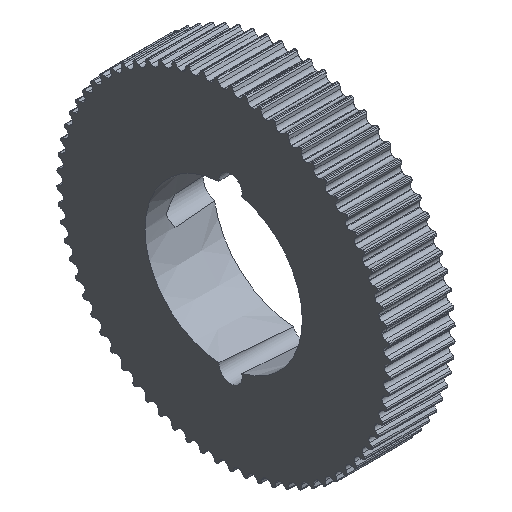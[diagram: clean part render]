
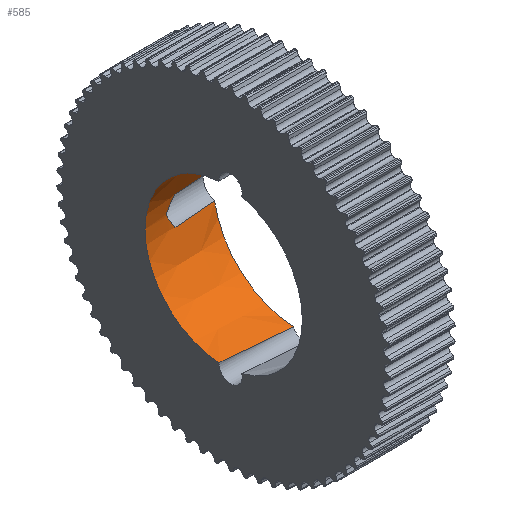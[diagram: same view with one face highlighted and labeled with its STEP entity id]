
A CAD part, isometric view. The second image highlights one B-rep face of the part: STEP entity #585.
In plain terms, the highlighted conical face has half-angle 4 degrees and reference radius 26.752 mm.
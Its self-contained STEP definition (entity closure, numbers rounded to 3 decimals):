
#585 = ADVANCED_FACE( '', ( #1685 ), #1686, .F. );
#1685 = FACE_OUTER_BOUND( '', #2861, .T. );
#1686 = CONICAL_SURFACE( '', #2862, 26.752, 0.07 );
#2861 = EDGE_LOOP( '', ( #7156, #7157, #7158, #7159, #7160, #7161, #7162, #7163 ) );
#2862 = AXIS2_PLACEMENT_3D( '', #7164, #7165, #7166 );
#7156 = ORIENTED_EDGE( '', *, *, #9938, .F. );
#7157 = ORIENTED_EDGE( '', *, *, #9939, .T. );
#7158 = ORIENTED_EDGE( '', *, *, #9932, .T. );
#7159 = ORIENTED_EDGE( '', *, *, #9940, .T. );
#7160 = ORIENTED_EDGE( '', *, *, #8269, .T. );
#7161 = ORIENTED_EDGE( '', *, *, #9941, .T. );
#7162 = ORIENTED_EDGE( '', *, *, #9930, .T. );
#7163 = ORIENTED_EDGE( '', *, *, #9942, .T. );
#7164 = CARTESIAN_POINT( '', ( 0., 0., 0. ) );
#7165 = DIRECTION( '', ( 1., 0., 0. ) );
#7166 = DIRECTION( '', ( 0., 0., -1. ) );
#8269 = EDGE_CURVE( '', #10016, #10017, #10019, .T. );
#9930 = EDGE_CURVE( '', #12837, #12835, #12838, .T. );
#9932 = EDGE_CURVE( '', #12841, #12839, #12842, .T. );
#9938 = EDGE_CURVE( '', #12850, #12851, #12852, .T. );
#9939 = EDGE_CURVE( '', #12850, #12841, #12853, .T. );
#9940 = EDGE_CURVE( '', #12839, #10016, #12854, .T. );
#9941 = EDGE_CURVE( '', #10017, #12837, #12855, .T. );
#9942 = EDGE_CURVE( '', #12835, #12851, #12856, .T. );
#10016 = VERTEX_POINT( '', #12930 );
#10017 = VERTEX_POINT( '', #12931 );
#10019 = B_SPLINE_CURVE_WITH_KNOTS( '', 3, ( #12933, #12934, #12935, #12936, #12937, #12938, #12939, #12940, #12941, #12942, #12943, #12944, #12945, #12946, #12947, #12948, #12949, #12950, #12951, #12952, #12953, #12954 ), .UNSPECIFIED., .F., .F., ( 4, 2, 2, 2, 2, 2, 2, 2, 2, 2, 4 ), ( 0., 0.003, 0.004, 0.005, 0.005, 0.006, 0.006, 0.006, 0.007, 0.008, 0.011 ), .UNSPECIFIED. );
#12835 = VERTEX_POINT( '', #16778 );
#12837 = VERTEX_POINT( '', #16780 );
#12838 = CIRCLE( '', #16781, 28.5 );
#12839 = VERTEX_POINT( '', #16782 );
#12841 = VERTEX_POINT( '', #16784 );
#12842 = CIRCLE( '', #16785, 28.5 );
#12850 = VERTEX_POINT( '', #16803 );
#12851 = VERTEX_POINT( '', #16804 );
#12852 = CIRCLE( '', #16805, 26.752 );
#12853 = B_SPLINE_CURVE_WITH_KNOTS( '', 3, ( #16806, #16807, #16808, #16809, #16810, #16811 ), .UNSPECIFIED., .F., .F., ( 4, 2, 4 ), ( 0., 0.013, 0.025 ), .UNSPECIFIED. );
#12854 = B_SPLINE_CURVE_WITH_KNOTS( '', 3, ( #16812, #16813, #16814, #16815 ), .UNSPECIFIED., .F., .F., ( 4, 4 ), ( 0., 0.015 ), .UNSPECIFIED. );
#12855 = B_SPLINE_CURVE_WITH_KNOTS( '', 3, ( #16816, #16817, #16818, #16819 ), .UNSPECIFIED., .F., .F., ( 4, 4 ), ( 0., 0.015 ), .UNSPECIFIED. );
#12856 = B_SPLINE_CURVE_WITH_KNOTS( '', 3, ( #16820, #16821, #16822, #16823, #16824, #16825 ), .UNSPECIFIED., .F., .F., ( 4, 2, 4 ), ( 0., 0.013, 0.025 ), .UNSPECIFIED. );
#12930 = CARTESIAN_POINT( '', ( 10.5, 27.046, -4.9 ) );
#12931 = CARTESIAN_POINT( '', ( 10.5, 27.046, 4.9 ) );
#12933 = CARTESIAN_POINT( '', ( 10.5, 27.046, -4.9 ) );
#12934 = CARTESIAN_POINT( '', ( 10.036, 27.159, -4.095 ) );
#12935 = CARTESIAN_POINT( '', ( 9.573, 27.236, -3.287 ) );
#12936 = CARTESIAN_POINT( '', ( 8.879, 27.297, -2.069 ) );
#12937 = CARTESIAN_POINT( '', ( 8.647, 27.309, -1.663 ) );
#12938 = CARTESIAN_POINT( '', ( 8.306, 27.313, -1.05 ) );
#12939 = CARTESIAN_POINT( '', ( 8.192, 27.312, -0.846 ) );
#12940 = CARTESIAN_POINT( '', ( 8.031, 27.308, -0.534 ) );
#12941 = CARTESIAN_POINT( '', ( 7.978, 27.307, -0.43 ) );
#12942 = CARTESIAN_POINT( '', ( 7.888, 27.303, -0.214 ) );
#12943 = CARTESIAN_POINT( '', ( 7.85, 27.301, -0.101 ) );
#12944 = CARTESIAN_POINT( '', ( 7.857, 27.301, 0.134 ) );
#12945 = CARTESIAN_POINT( '', ( 7.899, 27.303, 0.245 ) );
#12946 = CARTESIAN_POINT( '', ( 7.992, 27.307, 0.458 ) );
#12947 = CARTESIAN_POINT( '', ( 8.045, 27.309, 0.562 ) );
#12948 = CARTESIAN_POINT( '', ( 8.206, 27.313, 0.871 ) );
#12949 = CARTESIAN_POINT( '', ( 8.319, 27.313, 1.074 ) );
#12950 = CARTESIAN_POINT( '', ( 8.659, 27.308, 1.683 ) );
#12951 = CARTESIAN_POINT( '', ( 8.888, 27.297, 2.087 ) );
#12952 = CARTESIAN_POINT( '', ( 9.578, 27.235, 3.296 ) );
#12953 = CARTESIAN_POINT( '', ( 10.039, 27.158, 4.1 ) );
#12954 = CARTESIAN_POINT( '', ( 10.5, 27.046, 4.9 ) );
#16778 = CARTESIAN_POINT( '', ( 25., 1.308, 28.47 ) );
#16780 = CARTESIAN_POINT( '', ( 25., 28.098, 4.772 ) );
#16781 = AXIS2_PLACEMENT_3D( '', #19866, #19867, #19868 );
#16782 = CARTESIAN_POINT( '', ( 25., 28.098, -4.772 ) );
#16784 = CARTESIAN_POINT( '', ( 25., 1.308, -28.47 ) );
#16785 = AXIS2_PLACEMENT_3D( '', #19872, #19873, #19874 );
#16803 = CARTESIAN_POINT( '', ( 0., 1.588, -26.705 ) );
#16804 = CARTESIAN_POINT( '', ( 0., 1.588, 26.705 ) );
#16805 = AXIS2_PLACEMENT_3D( '', #19884, #19885, #19886 );
#16806 = CARTESIAN_POINT( '', ( 0., 1.588, -26.705 ) );
#16807 = CARTESIAN_POINT( '', ( 4.167, 1.609, -26.995 ) );
#16808 = CARTESIAN_POINT( '', ( 8.335, 1.598, -27.288 ) );
#16809 = CARTESIAN_POINT( '', ( 16.669, 1.508, -27.877 ) );
#16810 = CARTESIAN_POINT( '', ( 20.835, 1.429, -28.173 ) );
#16811 = CARTESIAN_POINT( '', ( 25., 1.308, -28.47 ) );
#16812 = CARTESIAN_POINT( '', ( 25., 28.098, -4.772 ) );
#16813 = CARTESIAN_POINT( '', ( 20.168, 27.741, -4.855 ) );
#16814 = CARTESIAN_POINT( '', ( 15.334, 27.39, -4.895 ) );
#16815 = CARTESIAN_POINT( '', ( 10.5, 27.046, -4.9 ) );
#16816 = CARTESIAN_POINT( '', ( 10.5, 27.046, 4.9 ) );
#16817 = CARTESIAN_POINT( '', ( 15.334, 27.39, 4.895 ) );
#16818 = CARTESIAN_POINT( '', ( 20.168, 27.741, 4.855 ) );
#16819 = CARTESIAN_POINT( '', ( 25., 28.098, 4.772 ) );
#16820 = CARTESIAN_POINT( '', ( 25., 1.308, 28.47 ) );
#16821 = CARTESIAN_POINT( '', ( 20.835, 1.429, 28.173 ) );
#16822 = CARTESIAN_POINT( '', ( 16.668, 1.508, 27.877 ) );
#16823 = CARTESIAN_POINT( '', ( 8.335, 1.598, 27.288 ) );
#16824 = CARTESIAN_POINT( '', ( 4.167, 1.609, 26.995 ) );
#16825 = CARTESIAN_POINT( '', ( 0., 1.588, 26.705 ) );
#19866 = CARTESIAN_POINT( '', ( 25., 0., 0. ) );
#19867 = DIRECTION( '', ( 1., 0., 0. ) );
#19868 = DIRECTION( '', ( 0., 0., -1. ) );
#19872 = CARTESIAN_POINT( '', ( 25., 0., 0. ) );
#19873 = DIRECTION( '', ( 1., 0., 0. ) );
#19874 = DIRECTION( '', ( 0., 0., -1. ) );
#19884 = CARTESIAN_POINT( '', ( 0., 0., 0. ) );
#19885 = DIRECTION( '', ( 1., 0., 0. ) );
#19886 = DIRECTION( '', ( 0., 0., -1. ) );
